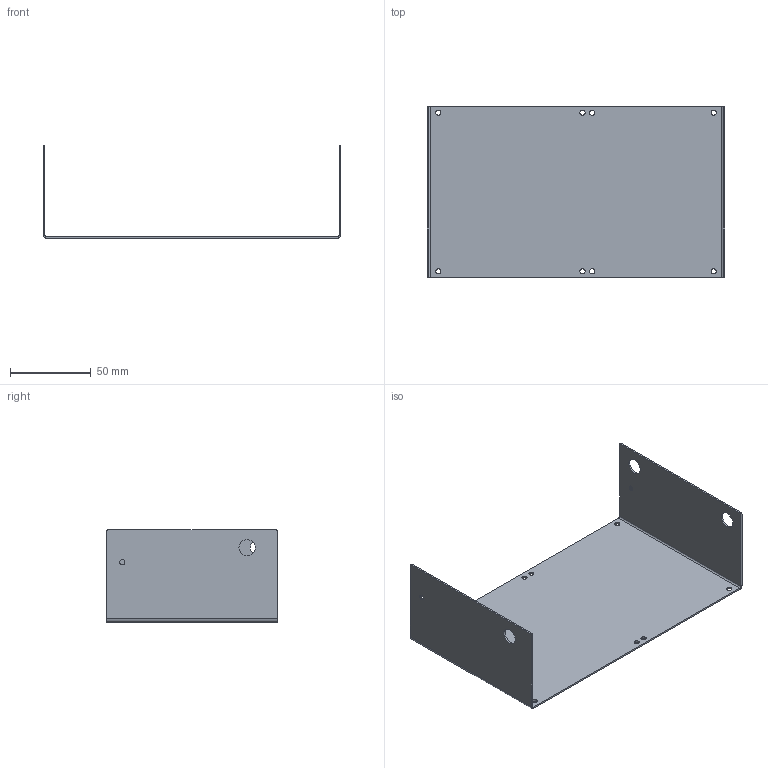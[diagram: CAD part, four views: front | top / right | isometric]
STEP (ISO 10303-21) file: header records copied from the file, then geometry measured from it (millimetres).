
FILE_DESCRIPTION(('FreeCAD Model'),'2;1');
FILE_NAME('Open CASCADE Shape Model','2021-12-18T23:50:11',('Author'),( ''),'Open CASCADE STEP processor 7.4','FreeCAD','Unknown');
FILE_SCHEMA(('AUTOMOTIVE_DESIGN { 1 0 10303 214 1 1 1 1 }'));
Length unit declared in the file: millimetre
Products named in the file (1): Cut010
Bounding box: 184 x 106 x 57 mm (x, y, z)
Volume: 30922.6 mm3; surface area: 62839.7 mm2
Topology: 1 solids, 1 shells, 39 faces, 95 edges, 58 vertices
Faces by surface type: cylinder 21, plane 18
Full cylindrical faces by diameter (mm): 3.2 x10, 10 x3
Entity records: 2478 total; most frequent: CARTESIAN_POINT 447, DIRECTION 393, LINE 197, VECTOR 197, ORIENTED_EDGE 190, PCURVE 190, DEFINITIONAL_REPRESENTATION 190, EDGE_CURVE 95
